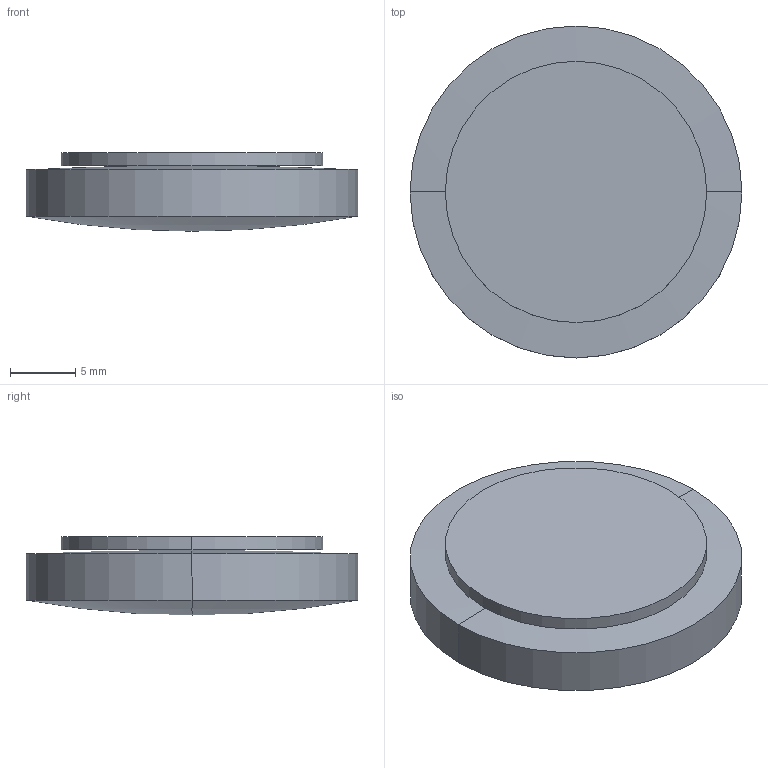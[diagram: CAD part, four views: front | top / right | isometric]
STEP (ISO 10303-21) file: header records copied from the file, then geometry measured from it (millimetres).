
FILE_DESCRIPTION(('STEP AP214'),'1');
FILE_NAME('LLF-25140.STEP','2020-03-09T17:41:24',(' '),(' '),'Spatial InterOp 3D',' ',' ');
FILE_SCHEMA(('AUTOMOTIVE_DESIGN { 1 0 10303 214 1 1 1 1 }'));
Length unit declared in the file: millimetre
Products named in the file (1): 1
Bounding box: 25.4 x 25.4 x 6 mm (x, y, z)
Volume: 2479.8 mm3; surface area: 1991.9 mm2
Topology: 2 solids, 2 shells, 10 faces, 20 edges, 10 vertices
Faces by surface type: sphere 4, cylinder 4, plane 2
Entity records: 255 total; most frequent: DIRECTION 52, CARTESIAN_POINT 38, ORIENTED_EDGE 32, AXIS2_PLACEMENT_3D 24, EDGE_CURVE 16, CIRCLE 12, ADVANCED_FACE 10, FACE_OUTER_BOUND 10
